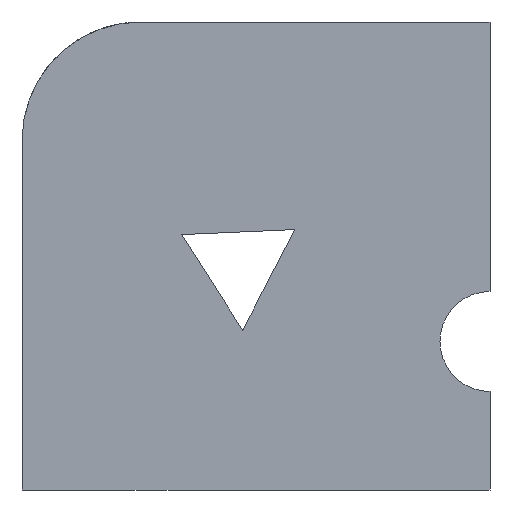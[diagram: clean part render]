
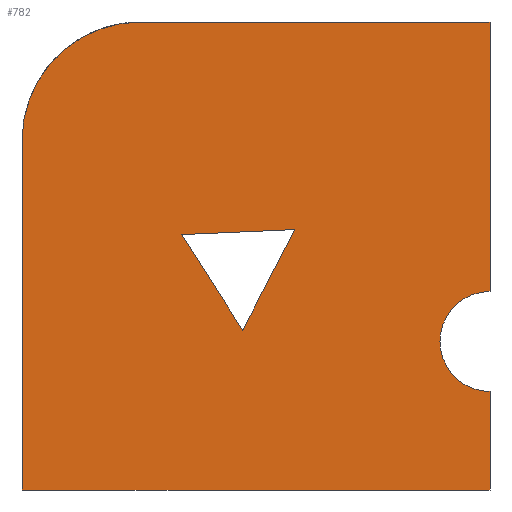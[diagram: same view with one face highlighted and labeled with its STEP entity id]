
A CAD part, front view. The second image highlights one B-rep face of the part: STEP entity #782.
In plain terms, the highlighted planar face has unit normal (0, -1, 0).
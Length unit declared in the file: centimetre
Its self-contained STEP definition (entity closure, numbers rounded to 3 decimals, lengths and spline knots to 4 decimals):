
#6 = CIRCLE ( 'NONE', #480, 253.198 ) ;
#13 = VECTOR ( 'NONE', #443, 100. ) ;
#37 = DIRECTION ( 'NONE',  ( 1., 0., 0. ) ) ;
#41 = VERTEX_POINT ( 'NONE', #565 ) ;
#42 = EDGE_CURVE ( 'NONE', #682, #713, #683, .T. ) ;
#45 = DIRECTION ( 'NONE',  ( 1., 0., 0. ) ) ;
#48 = LINE ( 'NONE', #107, #171 ) ;
#72 = VECTOR ( 'NONE', #45, 100. ) ;
#82 = CARTESIAN_POINT ( 'NONE',  ( 1000., 0., 317.3357 ) ) ;
#106 = EDGE_CURVE ( 'NONE', #713, #41, #224, .T. ) ;
#107 = CARTESIAN_POINT ( 'NONE',  ( 583.1018, 0., 556.4396 ) ) ;
#114 = PLANE ( 'NONE',  #490 ) ;
#136 = VERTEX_POINT ( 'NONE', #772 ) ;
#150 = VECTOR ( 'NONE', #793, 100. ) ;
#160 = VERTEX_POINT ( 'NONE', #496 ) ;
#171 = VECTOR ( 'NONE', #736, 100. ) ;
#191 = CARTESIAN_POINT ( 'NONE',  ( 1000., 0., 424.2519 ) ) ;
#194 = ORIENTED_EDGE ( 'NONE', *, *, #42, .F. ) ;
#198 = EDGE_CURVE ( 'NONE', #451, #160, #435, .T. ) ;
#211 = EDGE_CURVE ( 'NONE', #317, #41, #243, .T. ) ;
#222 = CARTESIAN_POINT ( 'NONE',  ( 1000., 0., 1000. ) ) ;
#224 = LINE ( 'NONE', #506, #299 ) ;
#236 = CARTESIAN_POINT ( 'NONE',  ( 253.198, 0., 1000. ) ) ;
#242 = ORIENTED_EDGE ( 'NONE', *, *, #666, .F. ) ;
#243 = LINE ( 'NONE', #727, #767 ) ;
#245 = EDGE_CURVE ( 'NONE', #160, #880, #48, .T. ) ;
#260 = FACE_BOUND ( 'NONE', #419, .T. ) ;
#266 = ORIENTED_EDGE ( 'NONE', *, *, #106, .F. ) ;
#273 = EDGE_CURVE ( 'NONE', #847, #317, #461, .T. ) ;
#294 = ORIENTED_EDGE ( 'NONE', *, *, #273, .T. ) ;
#299 = VECTOR ( 'NONE', #501, 100. ) ;
#301 = CARTESIAN_POINT ( 'NONE',  ( 253.198, 0., 746.802 ) ) ;
#304 = DIRECTION ( 'NONE',  ( 0., -1., 0. ) ) ;
#317 = VERTEX_POINT ( 'NONE', #817 ) ;
#324 = CARTESIAN_POINT ( 'NONE',  ( 0., 0., 1000. ) ) ;
#327 = CARTESIAN_POINT ( 'NONE',  ( 0., 0., 1000. ) ) ;
#359 = AXIS2_PLACEMENT_3D ( 'NONE', #82, #304, #626 ) ;
#367 = DIRECTION ( 'NONE',  ( 0., -1., 0. ) ) ;
#372 = LINE ( 'NONE', #222, #150 ) ;
#395 = DIRECTION ( 'NONE',  ( 0., 1., 0. ) ) ;
#396 = ORIENTED_EDGE ( 'NONE', *, *, #198, .T. ) ;
#418 = CARTESIAN_POINT ( 'NONE',  ( 0., 0., 746.802 ) ) ;
#419 = EDGE_LOOP ( 'NONE', ( #811, #649, #396 ) ) ;
#435 = LINE ( 'NONE', #708, #481 ) ;
#443 = DIRECTION ( 'NONE',  ( -0.461, 0., -0.887 ) ) ;
#451 = VERTEX_POINT ( 'NONE', #692 ) ;
#461 = LINE ( 'NONE', #324, #799 ) ;
#472 = EDGE_CURVE ( 'NONE', #136, #682, #372, .T. ) ;
#473 = CARTESIAN_POINT ( 'NONE',  ( 1000., 0., 210.4194 ) ) ;
#478 = DIRECTION ( 'NONE',  ( 0., 0., -1. ) ) ;
#480 = AXIS2_PLACEMENT_3D ( 'NONE', #301, #367, #637 ) ;
#481 = VECTOR ( 'NONE', #527, 100. ) ;
#490 = AXIS2_PLACEMENT_3D ( 'NONE', #823, #395, #667 ) ;
#495 = CARTESIAN_POINT ( 'NONE',  ( 583.1018, 0., 556.4396 ) ) ;
#496 = CARTESIAN_POINT ( 'NONE',  ( 341.2584, 0., 545.7168 ) ) ;
#501 = DIRECTION ( 'NONE',  ( 0., 0., -1. ) ) ;
#506 = CARTESIAN_POINT ( 'NONE',  ( 1000., 0., 1000. ) ) ;
#508 = CARTESIAN_POINT ( 'NONE',  ( 471.4663, 0., 341.6357 ) ) ;
#510 = ORIENTED_EDGE ( 'NONE', *, *, #472, .F. ) ;
#527 = DIRECTION ( 'NONE',  ( -0.538, 0., 0.843 ) ) ;
#565 = CARTESIAN_POINT ( 'NONE',  ( 1000., 0., 0. ) ) ;
#567 = EDGE_CURVE ( 'NONE', #608, #847, #6, .T. ) ;
#608 = VERTEX_POINT ( 'NONE', #236 ) ;
#626 = DIRECTION ( 'NONE',  ( 0., 0., -1. ) ) ;
#635 = EDGE_CURVE ( 'NONE', #880, #451, #846, .T. ) ;
#637 = DIRECTION ( 'NONE',  ( 0., 0., 1. ) ) ;
#649 = ORIENTED_EDGE ( 'NONE', *, *, #635, .T. ) ;
#666 = EDGE_CURVE ( 'NONE', #608, #136, #814, .T. ) ;
#667 = DIRECTION ( 'NONE',  ( 0., 0., 1. ) ) ;
#682 = VERTEX_POINT ( 'NONE', #191 ) ;
#683 = CIRCLE ( 'NONE', #359, 106.9162 ) ;
#692 = CARTESIAN_POINT ( 'NONE',  ( 471.4663, 0., 341.6357 ) ) ;
#708 = CARTESIAN_POINT ( 'NONE',  ( 341.2584, 0., 545.7168 ) ) ;
#712 = EDGE_LOOP ( 'NONE', ( #266, #194, #510, #242, #780, #294, #860 ) ) ;
#713 = VERTEX_POINT ( 'NONE', #473 ) ;
#727 = CARTESIAN_POINT ( 'NONE',  ( 0., 0., 0. ) ) ;
#736 = DIRECTION ( 'NONE',  ( 0.999, 0., 0.044 ) ) ;
#737 = FACE_OUTER_BOUND ( 'NONE', #712, .T. ) ;
#767 = VECTOR ( 'NONE', #37, 100. ) ;
#772 = CARTESIAN_POINT ( 'NONE',  ( 1000., 0., 1000. ) ) ;
#780 = ORIENTED_EDGE ( 'NONE', *, *, #567, .T. ) ;
#782 = ADVANCED_FACE ( 'NONE', ( #260, #737 ), #114, .F. ) ;
#793 = DIRECTION ( 'NONE',  ( 0., 0., -1. ) ) ;
#799 = VECTOR ( 'NONE', #478, 100. ) ;
#811 = ORIENTED_EDGE ( 'NONE', *, *, #245, .T. ) ;
#814 = LINE ( 'NONE', #327, #72 ) ;
#817 = CARTESIAN_POINT ( 'NONE',  ( 0., 0., 0. ) ) ;
#823 = CARTESIAN_POINT ( 'NONE',  ( 0., 0., 1000. ) ) ;
#846 = LINE ( 'NONE', #508, #13 ) ;
#847 = VERTEX_POINT ( 'NONE', #418 ) ;
#860 = ORIENTED_EDGE ( 'NONE', *, *, #211, .T. ) ;
#880 = VERTEX_POINT ( 'NONE', #495 ) ;
